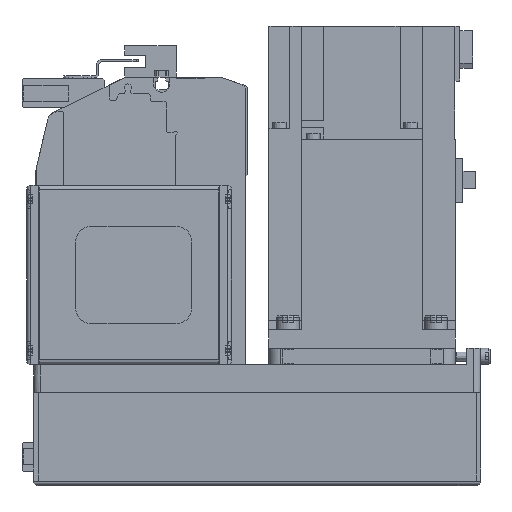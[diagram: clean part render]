
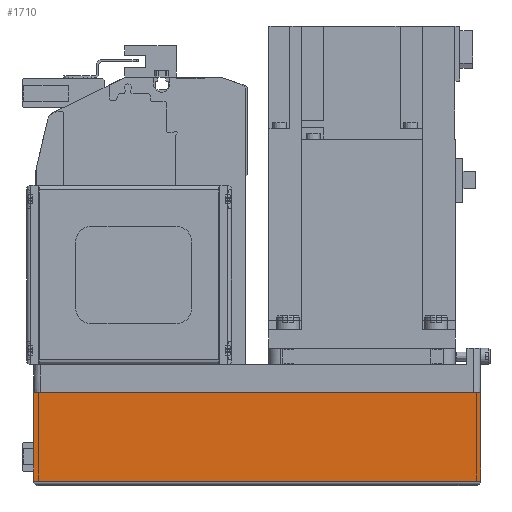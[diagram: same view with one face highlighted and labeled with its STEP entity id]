
A CAD part, left-side view. The second image highlights one B-rep face of the part: STEP entity #1710.
In plain terms, the highlighted planar face has unit normal (-1, 0, 0) as drawn and (0, 1, 0) by its records, which use the part's own axes.
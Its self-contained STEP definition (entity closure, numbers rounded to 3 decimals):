
#1710 = ADVANCED_FACE( '', ( #4310 ), #4311, .T. );
#4310 = FACE_OUTER_BOUND( '', #8114, .T. );
#4311 = PLANE( '', #8115 );
#8114 = EDGE_LOOP( '', ( #12992, #12993, #12994, #12995 ) );
#8115 = AXIS2_PLACEMENT_3D( '', #12996, #12997, #12998 );
#12992 = ORIENTED_EDGE( '', *, *, #22266, .F. );
#12993 = ORIENTED_EDGE( '', *, *, #22267, .F. );
#12994 = ORIENTED_EDGE( '', *, *, #22268, .T. );
#12995 = ORIENTED_EDGE( '', *, *, #22269, .T. );
#12996 = CARTESIAN_POINT( '', ( -192., 40., -50. ) );
#12997 = DIRECTION( '', ( 0., 1., 0. ) );
#12998 = DIRECTION( '', ( 0., 0., 1. ) );
#22266 = EDGE_CURVE( '', #26903, #26620, #26904, .T. );
#22267 = EDGE_CURVE( '', #26905, #26903, #26906, .T. );
#22268 = EDGE_CURVE( '', #26905, #26907, #26908, .T. );
#22269 = EDGE_CURVE( '', #26907, #26620, #26909, .T. );
#26620 = VERTEX_POINT( '', #33141 );
#26903 = VERTEX_POINT( '', #33605 );
#26904 = LINE( '', #33606, #33607 );
#26905 = VERTEX_POINT( '', #33608 );
#26906 = LINE( '', #33609, #33610 );
#26907 = VERTEX_POINT( '', #33611 );
#26908 = LINE( '', #33612, #33613 );
#26909 = LINE( '', #33614, #33615 );
#33141 = CARTESIAN_POINT( '', ( 0., 40., -12.1 ) );
#33605 = CARTESIAN_POINT( '', ( 0., 40., -50. ) );
#33606 = CARTESIAN_POINT( '', ( 0., 40., -50. ) );
#33607 = VECTOR( '', #41324, 1000. );
#33608 = CARTESIAN_POINT( '', ( -192., 40., -50. ) );
#33609 = CARTESIAN_POINT( '', ( -192., 40., -50. ) );
#33610 = VECTOR( '', #41325, 1000. );
#33611 = CARTESIAN_POINT( '', ( -192., 40., -12.1 ) );
#33612 = CARTESIAN_POINT( '', ( -192., 40., -50. ) );
#33613 = VECTOR( '', #41326, 1000. );
#33614 = CARTESIAN_POINT( '', ( -192., 40., -12.1 ) );
#33615 = VECTOR( '', #41327, 1000. );
#41324 = DIRECTION( '', ( 0., 0., 1. ) );
#41325 = DIRECTION( '', ( 1., 0., 0. ) );
#41326 = DIRECTION( '', ( 0., 0., 1. ) );
#41327 = DIRECTION( '', ( 1., 0., 0. ) );
